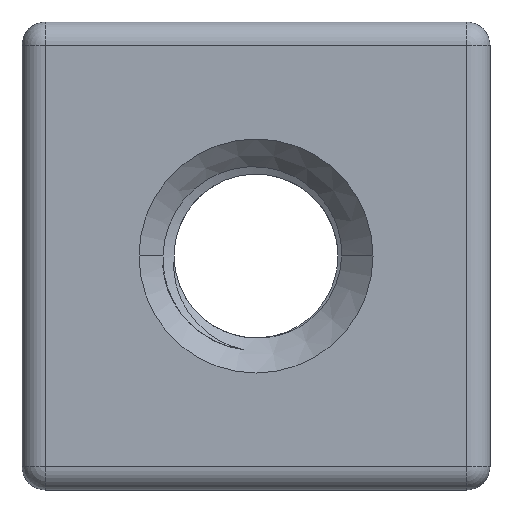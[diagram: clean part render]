
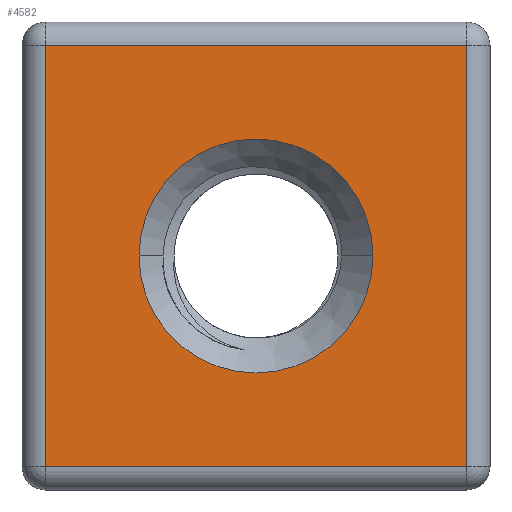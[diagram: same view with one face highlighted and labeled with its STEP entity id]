
A CAD part, front view. The second image highlights one B-rep face of the part: STEP entity #4582.
In plain terms, the highlighted planar face has unit normal (0, -1, 0).
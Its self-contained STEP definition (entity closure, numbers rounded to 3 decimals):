
#13 = FACE_BOUND ( 'NONE', #3400, .T. ) ;
#31 = ORIENTED_EDGE ( 'NONE', *, *, #3537, .T. ) ;
#137 = AXIS2_PLACEMENT_3D ( 'NONE', #4568, #1423, #3483 ) ;
#166 = EDGE_CURVE ( 'NONE', #2397, #1766, #3735, .T. ) ;
#212 = CIRCLE ( 'NONE', #3250, 10. ) ;
#245 = DIRECTION ( 'NONE',  ( 1., 0., 0. ) ) ;
#322 = CARTESIAN_POINT ( 'NONE',  ( -18., 0., 18. ) ) ;
#460 = VERTEX_POINT ( 'NONE', #773 ) ;
#482 = CARTESIAN_POINT ( 'NONE',  ( 0., 0., 0. ) ) ;
#526 = ORIENTED_EDGE ( 'NONE', *, *, #166, .T. ) ;
#641 = PLANE ( 'NONE',  #137 ) ;
#650 = VECTOR ( 'NONE', #245, 1000. ) ;
#758 = LINE ( 'NONE', #2097, #3785 ) ;
#773 = CARTESIAN_POINT ( 'NONE',  ( 10., 0., 0. ) ) ;
#876 = EDGE_CURVE ( 'NONE', #3449, #4152, #758, .T. ) ;
#979 = CARTESIAN_POINT ( 'NONE',  ( 18., 0., -18. ) ) ;
#1085 = DIRECTION ( 'NONE',  ( 0., 1., 0. ) ) ;
#1219 = DIRECTION ( 'NONE',  ( 0., 0., -1. ) ) ;
#1225 = EDGE_CURVE ( 'NONE', #1259, #460, #3827, .T. ) ;
#1257 = CARTESIAN_POINT ( 'NONE',  ( 20., 0., -18. ) ) ;
#1259 = VERTEX_POINT ( 'NONE', #4388 ) ;
#1423 = DIRECTION ( 'NONE',  ( 0., -1., 0. ) ) ;
#1603 = ORIENTED_EDGE ( 'NONE', *, *, #876, .T. ) ;
#1766 = VERTEX_POINT ( 'NONE', #2006 ) ;
#1783 = DIRECTION ( 'NONE',  ( 0., 0., -1. ) ) ;
#1819 = VECTOR ( 'NONE', #3407, 1000. ) ;
#1879 = EDGE_CURVE ( 'NONE', #4152, #2397, #1983, .T. ) ;
#1944 = DIRECTION ( 'NONE',  ( 0., 1., 0. ) ) ;
#1983 = LINE ( 'NONE', #3802, #1819 ) ;
#2006 = CARTESIAN_POINT ( 'NONE',  ( -18., 0., -18. ) ) ;
#2097 = CARTESIAN_POINT ( 'NONE',  ( 18., 0., 20. ) ) ;
#2129 = CARTESIAN_POINT ( 'NONE',  ( 0., 0., 0. ) ) ;
#2224 = ORIENTED_EDGE ( 'NONE', *, *, #1879, .T. ) ;
#2397 = VERTEX_POINT ( 'NONE', #322 ) ;
#2651 = LINE ( 'NONE', #1257, #650 ) ;
#2744 = VECTOR ( 'NONE', #3362, 1000. ) ;
#3167 = FACE_OUTER_BOUND ( 'NONE', #4452, .T. ) ;
#3199 = ORIENTED_EDGE ( 'NONE', *, *, #4241, .T. ) ;
#3239 = AXIS2_PLACEMENT_3D ( 'NONE', #482, #1944, #1219 ) ;
#3244 = DIRECTION ( 'NONE',  ( 0., 0., 1. ) ) ;
#3250 = AXIS2_PLACEMENT_3D ( 'NONE', #2129, #1085, #1783 ) ;
#3362 = DIRECTION ( 'NONE',  ( 0., 0., -1. ) ) ;
#3383 = CARTESIAN_POINT ( 'NONE',  ( -18., 0., -20. ) ) ;
#3400 = EDGE_LOOP ( 'NONE', ( #4327, #3199 ) ) ;
#3407 = DIRECTION ( 'NONE',  ( -1., 0., 0. ) ) ;
#3449 = VERTEX_POINT ( 'NONE', #979 ) ;
#3483 = DIRECTION ( 'NONE',  ( 0., 0., -1. ) ) ;
#3532 = CARTESIAN_POINT ( 'NONE',  ( 18., 0., 18. ) ) ;
#3537 = EDGE_CURVE ( 'NONE', #1766, #3449, #2651, .T. ) ;
#3735 = LINE ( 'NONE', #3383, #2744 ) ;
#3785 = VECTOR ( 'NONE', #3244, 1000. ) ;
#3802 = CARTESIAN_POINT ( 'NONE',  ( -20., 0., 18. ) ) ;
#3827 = CIRCLE ( 'NONE', #3239, 10. ) ;
#4152 = VERTEX_POINT ( 'NONE', #3532 ) ;
#4241 = EDGE_CURVE ( 'NONE', #460, #1259, #212, .T. ) ;
#4327 = ORIENTED_EDGE ( 'NONE', *, *, #1225, .T. ) ;
#4388 = CARTESIAN_POINT ( 'NONE',  ( -10., 0., 0. ) ) ;
#4452 = EDGE_LOOP ( 'NONE', ( #31, #1603, #2224, #526 ) ) ;
#4568 = CARTESIAN_POINT ( 'NONE',  ( 0., 0., 0. ) ) ;
#4582 = ADVANCED_FACE ( 'NONE', ( #3167, #13 ), #641, .T. ) ;
